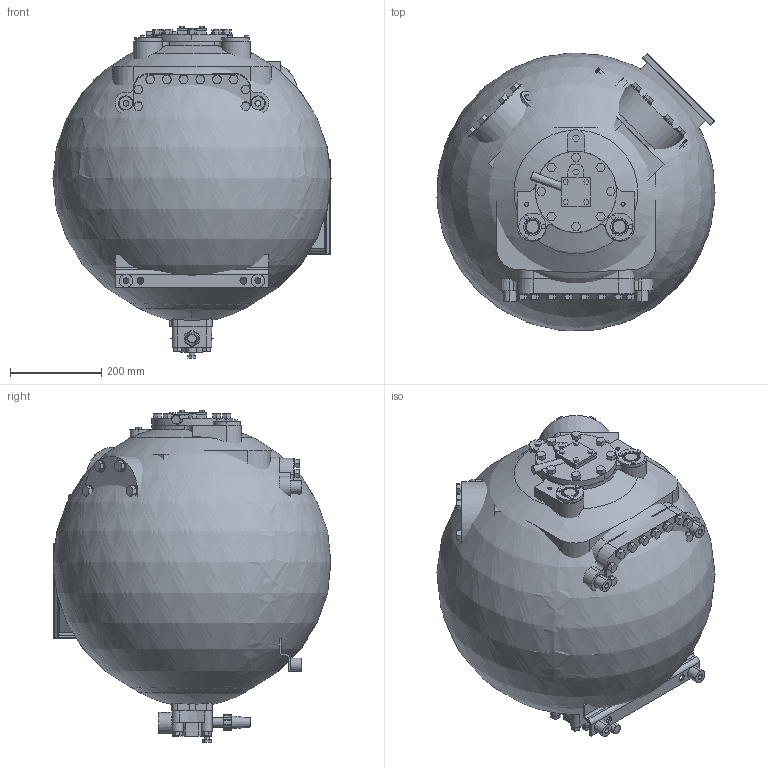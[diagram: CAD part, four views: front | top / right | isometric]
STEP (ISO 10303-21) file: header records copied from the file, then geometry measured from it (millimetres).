
FILE_DESCRIPTION((''),'2;1');
FILE_NAME('PRT0001','2004-01-22T',('kannanb'),(''),'PRO/ENGINEER BY PARAMETRIC TECHNOLOGY CORPORATION, 2001280','PRO/ENGINEER BY PARAMETRIC TECHNOLOGY CORPORATION, 2001280','');
FILE_SCHEMA(('CONFIG_CONTROL_DESIGN','SHAPE_APPEARANCE_LAYERS_GROUPS'));
Products named in the file (1): PRT0001
Bounding box: 609.33 x 609.05 x 727.48 mm (x, y, z)
Surface area: 6831491.9 mm2 (no closed solid volume)
Topology: 0 solids, 0 shells, 1254 faces, 6287 edges, 6276 vertices
Faces by surface type: bspline 1243, torus 6, sphere 5
Entity records: 124619 total; most frequent: CARTESIAN_POINT 45035, DIRECTION 8892, TRIMMED_CURVE 8249, VECTOR 7628, LINE 7628, DEFINITIONAL_REPRESENTATION 6262, PCURVE 6262, COMPOSITE_CURVE_SEGMENT 6262
